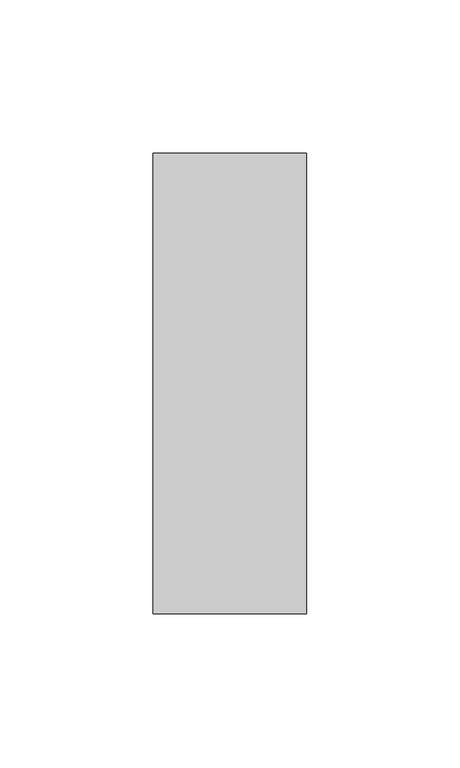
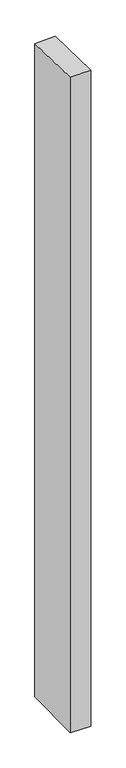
"""IFC4 building model written with IfcOpenShell, lengths in millimetres: member geometry, Прямоугольный импост : 50 x 150 мм."""

from ifc_helpers import new_model, si_unit, origin, place, context, project, spatial, faceted_brep, source, transform, mapped, element, save


def member_c669f000(model_context):
    return source(origin(), model_context, "Body", "Brep", [
        faceted_brep([(-25.0, 75.0, -2.5670482), (25.0, 75.0, -1.1858617), (25.0, 75.0, -1694.7605256), (-25.0, 75.0, -1693.5838856), (-25.0, -75.0, 1.1858617), (-25.0, -75.0, -1695.8560701), (25.0, -75.0, 2.5670482), (25.0, -75.0, -1697.0327101)], [[[0, 1, 2, 3]], [[4, 0, 3, 5]], [[6, 4, 5, 7]], [[1, 6, 7, 2]], [[1, 0, 4, 6]], [[2, 7, 5, 3]]]),
    ])


if __name__ == "__main__":
    model = new_model("IFC4")
    model_context = context("Model", 3, world=origin())
    ifc_project = project(units=[si_unit("LENGTHUNIT", "METRE", prefix="MILLI")], contexts=[model_context])
    site = spatial("IfcSite", under=ifc_project)
    building = spatial("IfcBuilding", under=site)
    placement = place(None, origin())
    member_shape = member_c669f000(model_context)
    element("IfcMember", 1, ObjectType="Прямоугольный импост : 50 x 150 мм", at=placement, inside=building, context=model_context, shape_type="MappedRepresentation", body=[
        mapped(member_shape, transform((0.0, 0.0, 0.0), x_axis=(1.0, 0.0, 0.0), y_axis=(0.0, 1.0, 0.0), z_axis=(0.0, 0.0, 1.0))),
    ])
    save(model, "model.ifc")
